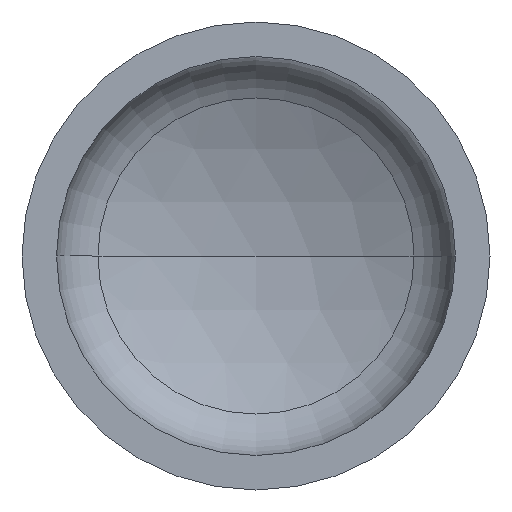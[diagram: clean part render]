
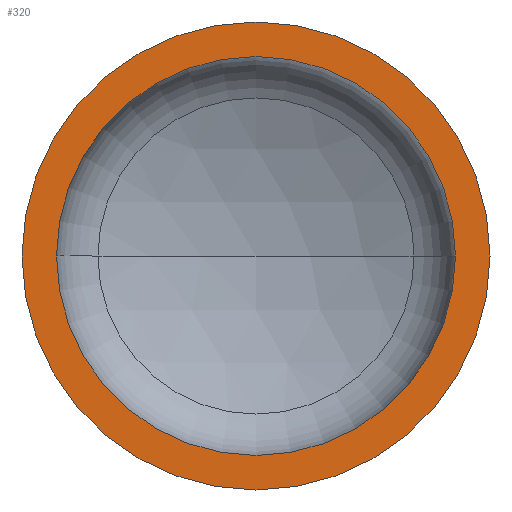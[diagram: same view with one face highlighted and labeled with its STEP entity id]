
A CAD part, front view. The second image highlights one B-rep face of the part: STEP entity #320.
In plain terms, the highlighted planar face has unit normal (0, -1, 0).
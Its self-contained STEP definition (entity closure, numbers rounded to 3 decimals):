
#1 = VERTEX_POINT ( 'NONE', #245 ) ;
#6 = AXIS2_PLACEMENT_3D ( 'NONE', #119, #396, #154 ) ;
#8 = EDGE_LOOP ( 'NONE', ( #59, #32 ) ) ;
#24 = ORIENTED_EDGE ( 'NONE', *, *, #348, .F. ) ;
#32 = ORIENTED_EDGE ( 'NONE', *, *, #142, .T. ) ;
#36 = EDGE_LOOP ( 'NONE', ( #393, #24 ) ) ;
#48 = VERTEX_POINT ( 'NONE', #280 ) ;
#57 = VERTEX_POINT ( 'NONE', #239 ) ;
#59 = ORIENTED_EDGE ( 'NONE', *, *, #366, .T. ) ;
#102 = VERTEX_POINT ( 'NONE', #332 ) ;
#104 = AXIS2_PLACEMENT_3D ( 'NONE', #200, #300, #297 ) ;
#116 = AXIS2_PLACEMENT_3D ( 'NONE', #294, #288, #287 ) ;
#119 = CARTESIAN_POINT ( 'NONE',  ( -800., 0., 0. ) ) ;
#132 = PLANE ( 'NONE',  #6 ) ;
#142 = EDGE_CURVE ( 'NONE', #1, #48, #324, .T. ) ;
#144 = CARTESIAN_POINT ( 'NONE',  ( 0., 0., 0. ) ) ;
#145 = EDGE_CURVE ( 'NONE', #57, #102, #261, .T. ) ;
#154 = DIRECTION ( 'NONE',  ( -1., 0., 0. ) ) ;
#200 = CARTESIAN_POINT ( 'NONE',  ( 0., 0., 0. ) ) ;
#203 = AXIS2_PLACEMENT_3D ( 'NONE', #359, #211, #305 ) ;
#211 = DIRECTION ( 'NONE',  ( 0., -1., 0. ) ) ;
#221 = FACE_OUTER_BOUND ( 'NONE', #8, .T. ) ;
#239 = CARTESIAN_POINT ( 'NONE',  ( 682., 0., 0. ) ) ;
#245 = CARTESIAN_POINT ( 'NONE',  ( -800., 0., 0. ) ) ;
#261 = CIRCLE ( 'NONE', #104, 682. ) ;
#278 = CIRCLE ( 'NONE', #298, 800. ) ;
#280 = CARTESIAN_POINT ( 'NONE',  ( 800., 0., 0. ) ) ;
#287 = DIRECTION ( 'NONE',  ( 1., 0., 0. ) ) ;
#288 = DIRECTION ( 'NONE',  ( 0., -1., 0. ) ) ;
#292 = DIRECTION ( 'NONE',  ( 0., -1., 0. ) ) ;
#294 = CARTESIAN_POINT ( 'NONE',  ( 0., 0., 0. ) ) ;
#297 = DIRECTION ( 'NONE',  ( 1., 0., 0. ) ) ;
#298 = AXIS2_PLACEMENT_3D ( 'NONE', #144, #292, #405 ) ;
#300 = DIRECTION ( 'NONE',  ( 0., -1., 0. ) ) ;
#305 = DIRECTION ( 'NONE',  ( 1., 0., 0. ) ) ;
#320 = ADVANCED_FACE ( 'NONE', ( #411, #221 ), #132, .F. ) ;
#324 = CIRCLE ( 'NONE', #116, 800. ) ;
#332 = CARTESIAN_POINT ( 'NONE',  ( -682., 0., 0. ) ) ;
#348 = EDGE_CURVE ( 'NONE', #102, #57, #355, .T. ) ;
#355 = CIRCLE ( 'NONE', #203, 682. ) ;
#359 = CARTESIAN_POINT ( 'NONE',  ( 0., 0., 0. ) ) ;
#366 = EDGE_CURVE ( 'NONE', #48, #1, #278, .T. ) ;
#393 = ORIENTED_EDGE ( 'NONE', *, *, #145, .F. ) ;
#396 = DIRECTION ( 'NONE',  ( 0., 1., 0. ) ) ;
#405 = DIRECTION ( 'NONE',  ( 1., 0., 0. ) ) ;
#411 = FACE_BOUND ( 'NONE', #36, .T. ) ;
